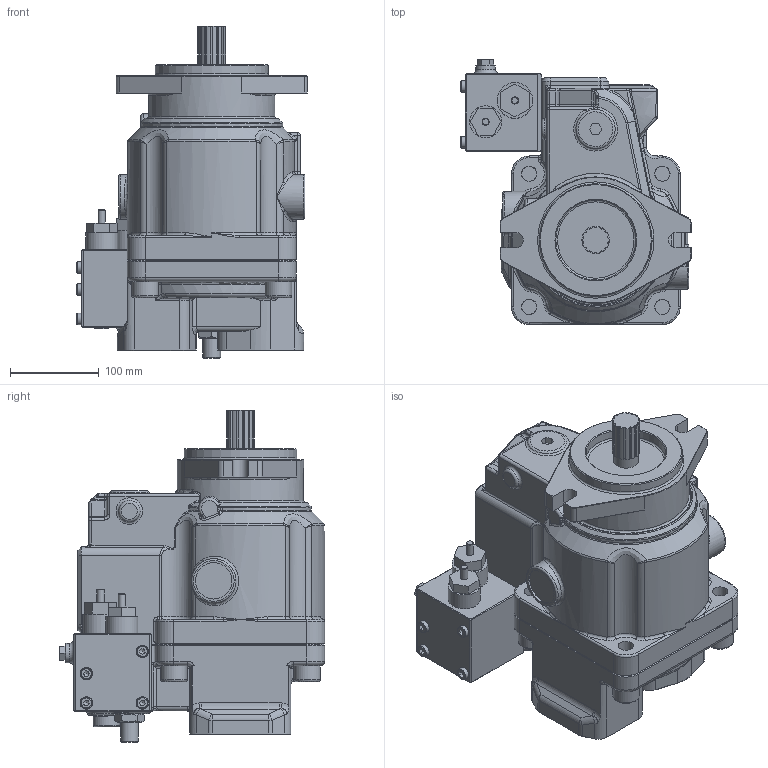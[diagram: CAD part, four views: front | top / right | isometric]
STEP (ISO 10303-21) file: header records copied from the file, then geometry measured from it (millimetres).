
FILE_DESCRIPTION((''),'2;1');
FILE_NAME('I:\3D Step files\Approved for WEB\K3V\K3VL112B 1RLCM L1.stp','2011-12-22T11:35:04',('mnorman'),(''),'Autodesk Inventor 2012','Autodesk Inventor 2012','');
FILE_SCHEMA(('AUTOMOTIVE_DESIGN { 1 0 10303 214 1 1 1 1 }'));
Length unit declared in the file: millimetre
Products named in the file (1): Part21
Bounding box: 259.5 x 299 x 373.92 mm (x, y, z)
Volume: 12594746.4 mm3; surface area: 589656.6 mm2
Topology: 18 solids, 18 shells, 1105 faces, 2599 edges, 1537 vertices
Faces by surface type: plane 428, cylinder 284, bspline 161, cone 110, torus 104, sphere 18
Full cylindrical faces by diameter (mm): 4.917 x4, 6.647 x4, 8 x6, 9 x4, 10.106 x4, 11.835 x4, 13 x4, 14 x4, 16 x2, 17.294 x5, 20 x6, 22 x6, 28 x1, 30 x5, 32 x6, 36 x1, 40 x1, 41 x2, 47 x1, 50 x1, 64 x1, 90 x1, 126.975 x1, 142.365 x1
Entity records: 39263 total; most frequent: CARTESIAN_POINT 14557, DIRECTION 4785, ORIENTED_EDGE 4768, EDGE_CURVE 2384, AXIS2_PLACEMENT_3D 1888, VERTEX_POINT 1495, EDGE_LOOP 1297, STYLED_ITEM 1123
